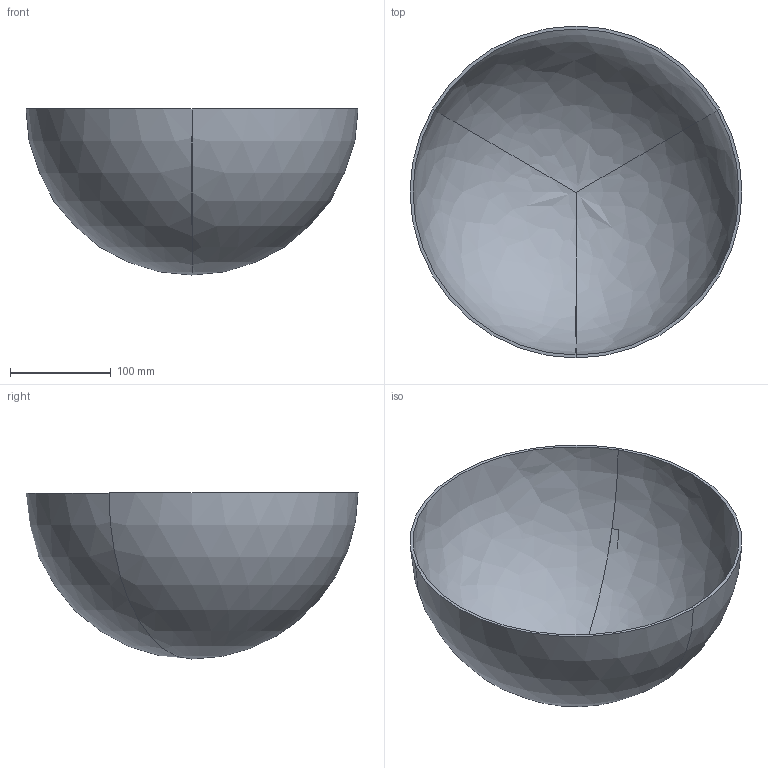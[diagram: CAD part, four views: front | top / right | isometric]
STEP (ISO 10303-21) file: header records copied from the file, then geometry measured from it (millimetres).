
FILE_DESCRIPTION(/* description */ (''),/* implementation_level */ '2;1');
FILE_NAME(/* name */ 'C:/Users/Rasika Jadhav/Downloads/Mission 2 FLoatSat/assembly 3 parts v3.step',/* time_stamp */ '2022-05-16T03:15:21+02:00',/* author */ (''),/* organization */ (''),/* preprocessor_version */ 'ST-DEVELOPER v18.1',/* originating_system */ 'Autodesk Translation Framework v10.14.0.1471',/* authorisation */ '');
FILE_SCHEMA (('AUTOMOTIVE_DESIGN { 1 0 10303 214 3 1 1 }'));
Length unit declared in the file: millimetre
Products named in the file (4): assembly 3 parts; 3 parts tb part 1.0; 3 parts tb part 2.0; 3 parts tb part 3 original
Assembly tree (3 placements, depth 2):
  assembly 3 parts
    3 parts tb part 1.0
    3 parts tb part 2.0
    3 parts tb part 3 original
Bounding box: 330 x 330 x 165 mm (x, y, z)
Volume: 964960.4 mm3; surface area: 363721.2 mm2
Topology: 3 solids, 3 shells, 75 faces, 177 edges, 114 vertices
Faces by surface type: sphere 27, cone 24, plane 21, bspline 3
Entity records: 2344 total; most frequent: DIRECTION 445, CARTESIAN_POINT 410, ORIENTED_EDGE 342, AXIS2_PLACEMENT_3D 194, EDGE_CURVE 171, CIRCLE 114, VERTEX_POINT 114, EDGE_LOOP 87
